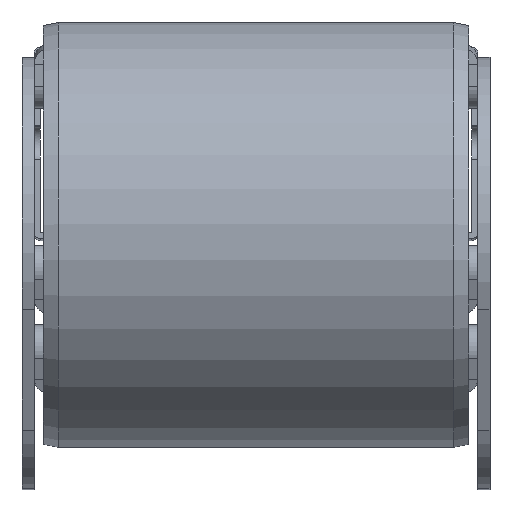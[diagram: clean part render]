
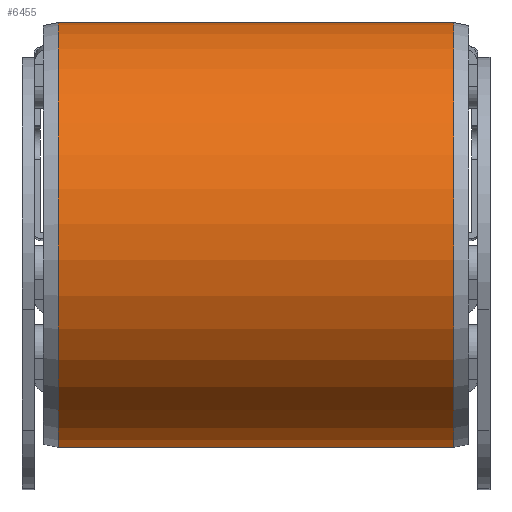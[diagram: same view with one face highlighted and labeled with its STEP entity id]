
A CAD part, top view. The second image highlights one B-rep face of the part: STEP entity #6455.
In plain terms, the highlighted cylindrical face has radius 70.002 mm (diameter 140.004 mm), a partial arc.
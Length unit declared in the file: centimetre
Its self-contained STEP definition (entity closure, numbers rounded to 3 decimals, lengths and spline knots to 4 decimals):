
#175=CYLINDRICAL_SURFACE('',#7052,7.0002);
#496=FACE_OUTER_BOUND('',#872,.T.);
#872=EDGE_LOOP('',(#5211,#5212,#5213,#5214));
#1167=CIRCLE('',#7045,7.0002);
#1170=CIRCLE('',#7050,7.0002);
#1623=LINE('',#10468,#2219);
#1629=LINE('',#10492,#2225);
#2219=VECTOR('',#8567,1.);
#2225=VECTOR('',#8595,1.);
#2841=VERTEX_POINT('',#10460);
#2843=VERTEX_POINT('',#10466);
#2846=VERTEX_POINT('',#10476);
#2849=VERTEX_POINT('',#10486);
#3665=EDGE_CURVE('',#2841,#2843,#1623,.T.);
#3670=EDGE_CURVE('',#2846,#2843,#1167,.T.);
#3674=EDGE_CURVE('',#2849,#2841,#1170,.T.);
#3677=EDGE_CURVE('',#2849,#2846,#1629,.T.);
#5211=ORIENTED_EDGE('',*,*,#3665,.T.);
#5212=ORIENTED_EDGE('',*,*,#3670,.F.);
#5213=ORIENTED_EDGE('',*,*,#3677,.F.);
#5214=ORIENTED_EDGE('',*,*,#3674,.T.);
#6455=ADVANCED_FACE('',(#496),#175,.T.);
#7045=AXIS2_PLACEMENT_3D('',#10478,#8577,#8578);
#7050=AXIS2_PLACEMENT_3D('',#10487,#8588,#8589);
#7052=AXIS2_PLACEMENT_3D('',#10491,#8593,#8594);
#8567=DIRECTION('',(1.,0.,0.));
#8577=DIRECTION('center_axis',(1.,0.,0.));
#8578=DIRECTION('ref_axis',(0.,1.,0.));
#8588=DIRECTION('center_axis',(1.,0.,0.));
#8589=DIRECTION('ref_axis',(0.,1.,0.));
#8593=DIRECTION('center_axis',(1.,0.,0.));
#8594=DIRECTION('ref_axis',(0.,-0.204,0.979));
#8595=DIRECTION('',(1.,0.,0.));
#10460=CARTESIAN_POINT('',(-6.5,-6.3198,41.2087));
#10466=CARTESIAN_POINT('',(6.5,-6.3198,41.2087));
#10468=CARTESIAN_POINT('',(-6.5,-6.3198,41.2087));
#10476=CARTESIAN_POINT('',(6.5,7.1,44.));
#10478=CARTESIAN_POINT('Origin',(6.5,0.0998,44.));
#10486=CARTESIAN_POINT('',(-6.5,7.1,44.));
#10487=CARTESIAN_POINT('Origin',(-6.5,0.0998,44.));
#10491=CARTESIAN_POINT('Origin',(0.,0.0998,
44.));
#10492=CARTESIAN_POINT('',(-6.5,7.1,44.));
